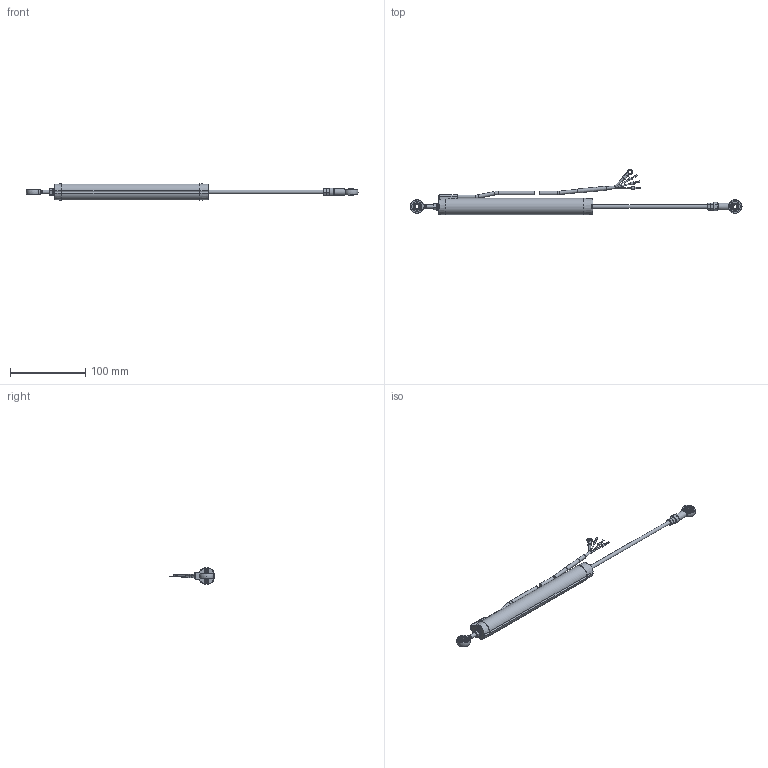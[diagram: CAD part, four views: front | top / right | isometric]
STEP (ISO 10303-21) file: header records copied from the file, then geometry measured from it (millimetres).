
FILE_DESCRIPTION(/* description */ (''),/* implementation_level */ '2;1');
FILE_NAME(/* name */ 'D:\LPPS-22 CAD Drawings\3D\LPPS-22-150\LPPS-22-150 SW.stp',/* time_stamp */ '2021-10-22T13:52:45-04:00',/* author */ ('Justin'),/* organization */ (''),/* preprocessor_version */ 'ST-DEVELOPER v18.1',/* originating_system */ 'Autodesk Inventor 2022',/* authorisation */ '');
FILE_SCHEMA (('AUTOMOTIVE_DESIGN { 1 0 10303 214 3 1 1 }'));
Products named in the file (4): LPPS-22-150 SW; LPPS-22-150_Cable Simplify; LPPS-22-150_Housing Simplify; LPPS-22-150_Shaft Simplify
Assembly tree (3 placements, depth 2):
  LPPS-22-150 SW
    LPPS-22-150_Cable Simplify
    LPPS-22-150_Housing Simplify
    LPPS-22-150_Shaft Simplify
Bounding box: 440.58 x 60.43 x 21.96 mm (x, y, z)
Volume: 49395.2 mm3; surface area: 45782.9 mm2
Topology: 30 solids, 30 shells, 757 faces, 2739 edges, 2048 vertices
Faces by surface type: cylinder 349, plane 202, cone 142, bspline 28, torus 22, sphere 14
Full cylindrical faces by diameter (mm): 1.27 x3, 1.48 x96, 1.575 x2, 2 x92, 2.286 x5, 3.175 x5, 3.81 x1, 3.881 x1, 4 x4, 4.134 x1, 4.191 x1, 4.342 x12, 4.572 x5, 4.826 x3, 4.851 x1, 4.953 x1, 5 x15, 5.004 x2, 5.08 x1, 5.207 x1, 5.3 x1, 6.35 x2, 9.144 x1, 10 x1, 12.675 x4, 12.7 x1, 15.875 x2, 17.78 x1
Entity records: 45076 total; most frequent: CARTESIAN_POINT 23734, ORIENTED_EDGE 5444, DIRECTION 3368, EDGE_CURVE 2722, VERTEX_POINT 2048, AXIS2_PLACEMENT_3D 1373, EDGE_LOOP 826, STYLED_ITEM 787
